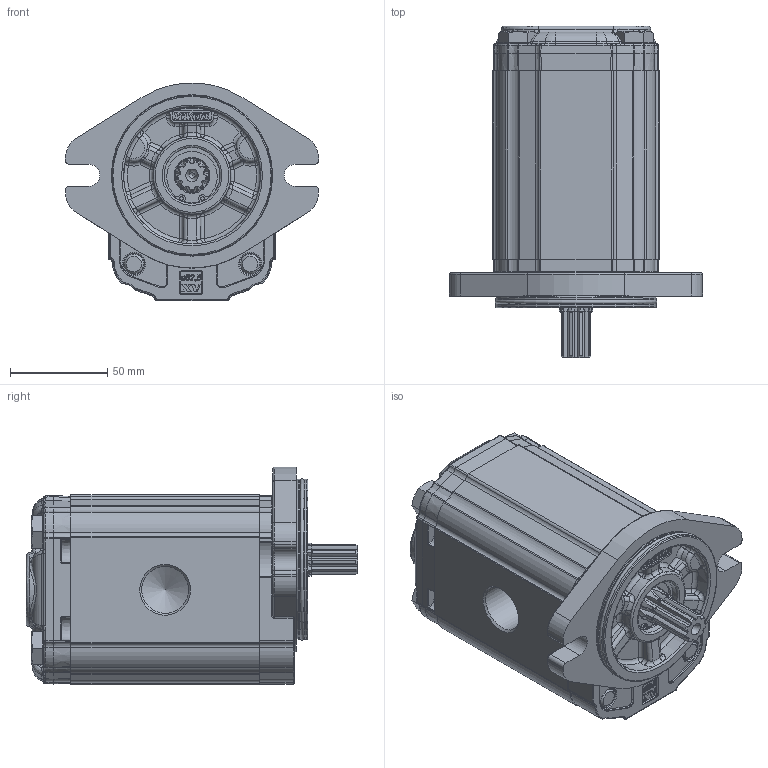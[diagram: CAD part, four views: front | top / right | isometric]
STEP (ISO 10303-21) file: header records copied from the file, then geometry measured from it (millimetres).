
FILE_DESCRIPTION(/* description */ ('Unknown'),/* implementation_level */ '2;1');
FILE_NAME(/* name */ 'X2U6152IDCA',/* time_stamp */ '2021-04-26T09:22:52+02:00',/* author */ ('Unknown'),/* organization */ ('Unknown'),/* preprocessor_version */ 'ST-DEVELOPER v16.7',/* originating_system */ 'Solid Edge',/* authorisation */ 'Unknown');
FILE_SCHEMA (('AUTOMOTIVE_DESIGN {1 0 10303 214 3 1 1}'));
Products named in the file (5): X2U6152IDCA; X2U52; 2I; X2DCH97; XU219-A
Assembly tree (4 placements, depth 2):
  X2U6152IDCA
    X2U52
    2I
    X2DCH97
    XU219-A
Bounding box: 130.38 x 170.7 x 112.3 mm (x, y, z)
Volume: 1044263.5 mm3; surface area: 120286.6 mm2
Topology: 4 solids, 5 shells, 2202 faces, 5434 edges, 3297 vertices
Faces by surface type: cylinder 648, plane 590, bspline 537, torus 285, cone 104, sphere 38
Full cylindrical faces by diameter (mm): 2 x2, 10 x4, 10.5 x4, 11 x2, 16 x4, 17.42 x1, 18 x1, 20.595 x1, 23.332 x1, 24.117 x1, 25.834 x1, 28.5 x1, 28.56 x1, 28.57 x1, 28.8 x1, 30.291 x1, 30.4 x1, 79.6 x2, 82.5 x2
Entity records: 92174 total; most frequent: CARTESIAN_POINT 30187, ORIENTED_EDGE 10492, DIRECTION 8845, EDGE_CURVE 5246, AXIS2_PLACEMENT_3D 3377, VERTEX_POINT 3235, FACE_BOUND 2391, EDGE_LOOP 2388
